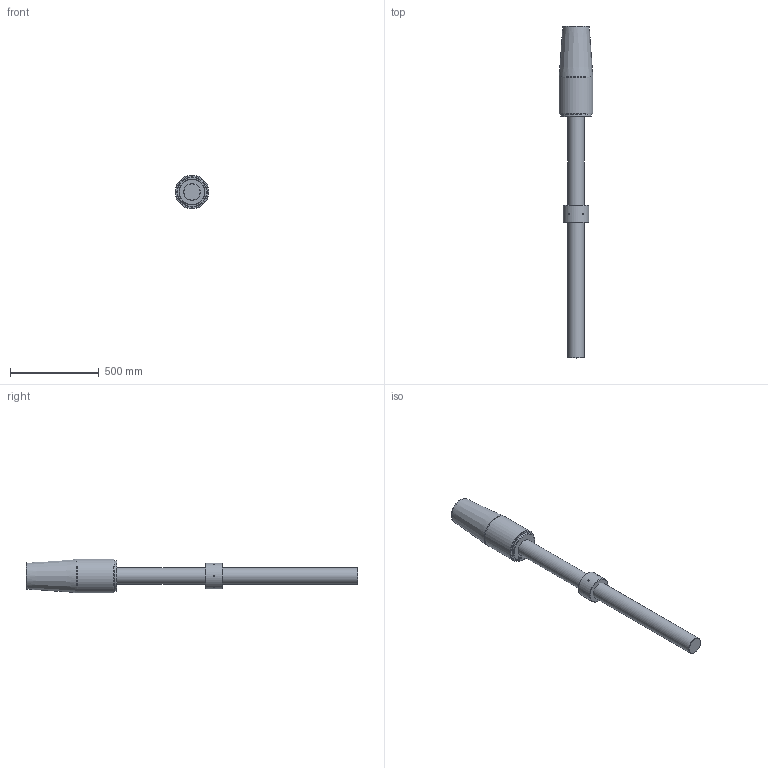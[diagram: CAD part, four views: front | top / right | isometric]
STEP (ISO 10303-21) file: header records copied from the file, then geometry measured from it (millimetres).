
FILE_DESCRIPTION(/* description */ (''),/* implementation_level */ '2;1');
FILE_NAME(/* name */ 'D:\Clienti\Redaelli (inventor)\CYB\STEP\Arrangement\CYB064 52 061 0.stp',/* time_stamp */ '2021-05-08T14:44:04+02:00',/* author */ ('fabri'),/* organization */ (''),/* preprocessor_version */ 'ST-DEVELOPER v16.13',/* originating_system */ 'Autodesk Inventor 2018',/* authorisation */ '');
FILE_SCHEMA (('AUTOMOTIVE_DESIGN { 1 0 10303 214 3 1 1 }'));
Length unit declared in the file: millimetre
Products named in the file (5): CYB064 52 061 0; RNT052 41 051 0_ROD; RNT052 41 051 0_ROD_1; CCY021-51-061-0_BUSH; CCY021-51-061-0
Assembly tree (4 placements, depth 2):
  CYB064 52 061 0
    RNT052 41 051 0_ROD
    RNT052 41 051 0_ROD_1
    CCY021-51-061-0_BUSH
    CCY021-51-061-0
Bounding box: 190 x 1868 x 190 mm (x, y, z)
Volume: 25484049.4 mm3; surface area: 1013234.5 mm2
Topology: 4 solids, 4 shells, 715 faces, 1908 edges, 1267 vertices
Faces by surface type: bspline 360, plane 317, cylinder 18, cone 16, torus 4
Full cylindrical faces by diameter (mm): 8 x6, 8.376 x3, 88.505 x2, 95 x1, 96 x1, 135 x1, 145 x2, 170 x1, 190 x1
Entity records: 24068 total; most frequent: CARTESIAN_POINT 8745, ORIENTED_EDGE 3718, DIRECTION 1899, EDGE_CURVE 1859, VERTEX_POINT 1257, LINE 1085, VECTOR 1085, EDGE_LOOP 824
